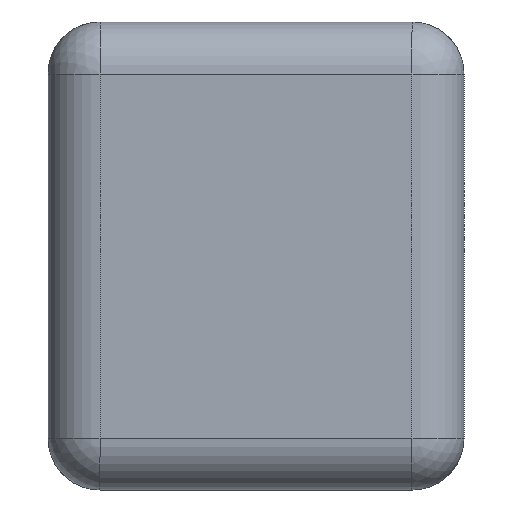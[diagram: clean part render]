
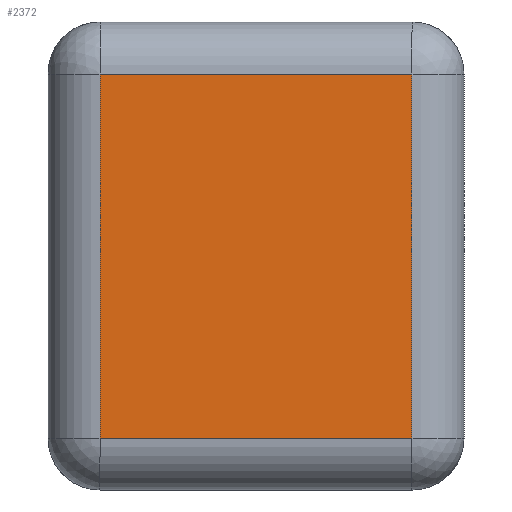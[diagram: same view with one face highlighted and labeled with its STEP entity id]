
A CAD part, left-side view. The second image highlights one B-rep face of the part: STEP entity #2372.
In plain terms, the highlighted planar face has unit normal (-1, 0, 0).
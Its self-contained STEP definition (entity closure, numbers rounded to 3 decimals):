
#103=PLANE('',#2551);
#189=FACE_OUTER_BOUND('',#340,.T.);
#340=EDGE_LOOP('',(#1707,#1708,#1709,#1710));
#498=LINE('',#3424,#723);
#499=LINE('',#3426,#724);
#500=LINE('',#3428,#725);
#501=LINE('',#3429,#726);
#723=VECTOR('',#2802,0.6);
#724=VECTOR('',#2803,0.7);
#725=VECTOR('',#2804,0.6);
#726=VECTOR('',#2805,0.7);
#1078=VERTEX_POINT('',#3422);
#1079=VERTEX_POINT('',#3423);
#1080=VERTEX_POINT('',#3425);
#1081=VERTEX_POINT('',#3427);
#1314=EDGE_CURVE('',#1078,#1079,#498,.T.);
#1315=EDGE_CURVE('',#1080,#1078,#499,.T.);
#1316=EDGE_CURVE('',#1081,#1080,#500,.T.);
#1317=EDGE_CURVE('',#1079,#1081,#501,.T.);
#1707=ORIENTED_EDGE('',*,*,#1314,.F.);
#1708=ORIENTED_EDGE('',*,*,#1315,.F.);
#1709=ORIENTED_EDGE('',*,*,#1316,.F.);
#1710=ORIENTED_EDGE('',*,*,#1317,.F.);
#2372=ADVANCED_FACE('',(#189),#103,.T.);
#2551=AXIS2_PLACEMENT_3D('',#3421,#2800,#2801);
#2800=DIRECTION('center_axis',(-1.,0.,0.));
#2801=DIRECTION('ref_axis',(0.,-1.,0.));
#2802=DIRECTION('',(0.,1.,0.));
#2803=DIRECTION('',(0.,0.,-1.));
#2804=DIRECTION('',(0.,-1.,0.));
#2805=DIRECTION('',(0.,0.,1.));
#3421=CARTESIAN_POINT('Origin',(-0.8,0.4,0.));
#3422=CARTESIAN_POINT('',(-0.8,-0.3,0.1));
#3423=CARTESIAN_POINT('',(-0.8,0.3,0.1));
#3424=CARTESIAN_POINT('',(-0.8,0.2,0.1));
#3425=CARTESIAN_POINT('',(-0.8,-0.3,0.8));
#3426=CARTESIAN_POINT('',(-0.8,-0.3,0.));
#3427=CARTESIAN_POINT('',(-0.8,0.3,0.8));
#3428=CARTESIAN_POINT('',(-0.8,0.2,0.8));
#3429=CARTESIAN_POINT('',(-0.8,0.3,0.));
